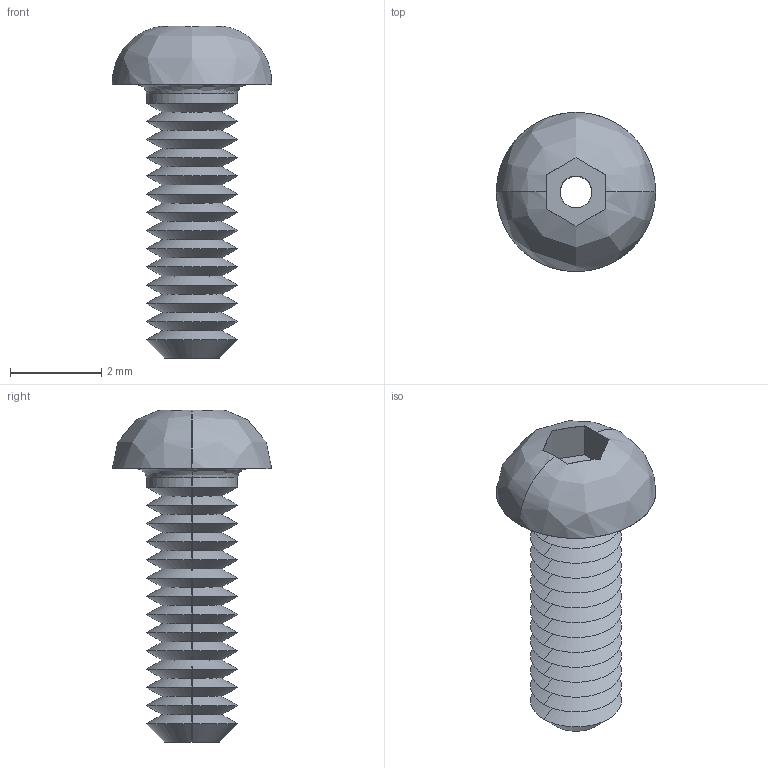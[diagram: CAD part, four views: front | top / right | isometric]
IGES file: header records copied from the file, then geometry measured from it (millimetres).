
Start section: SolidWorks IGES file using analytic representation for surfaces
Global section: file name: C:\Users\liam_\OneDrive\Documents\WORK\Work for WixRoyd\Job Files\J-00019 - Matt Davis CAD Checking\04. CAD Drawings\automotion20190605\P0094_v2\P0094_v2_20190712_IGES\P0094.020-006-A2.igs; native system: SolidWorks 2017; preprocessor: SolidWorks 2017; author: liam_; date: 190712.174925; units: millimetre
Bounding box: 3.5 x 3.5 x 7.29 mm (x, y, z)
Surface area: 100.9 mm2 (no closed solid volume)
Topology: 0 solids, 0 shells, 71 faces, 418 edges, 418 vertices
Faces by surface type: revolution 58, bspline 13
